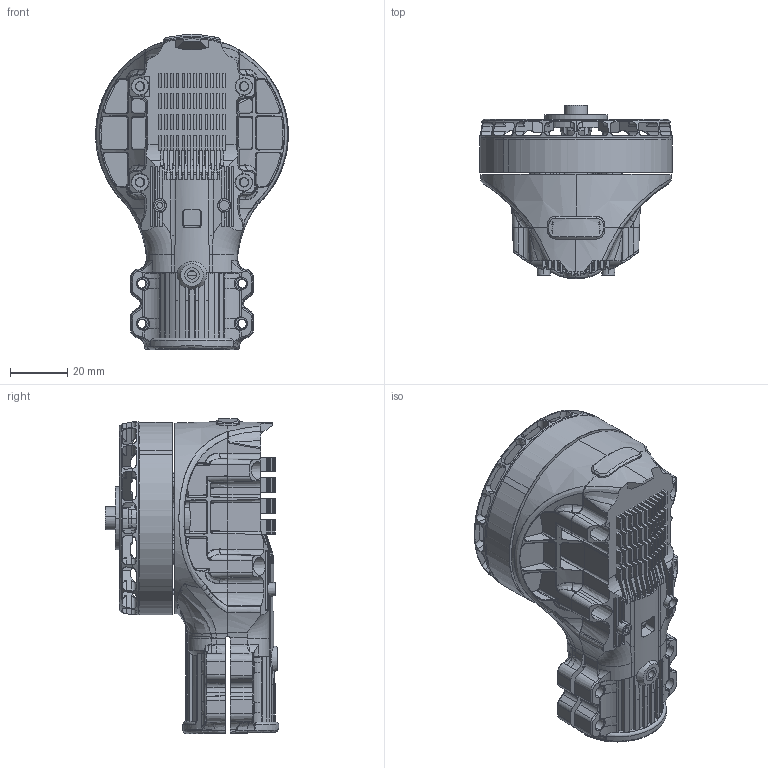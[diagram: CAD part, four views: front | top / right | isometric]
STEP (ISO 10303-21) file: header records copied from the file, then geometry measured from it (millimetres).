
FILE_DESCRIPTION (( 'STEP AP203' ), '1' );
FILE_NAME ('A6-M蚾饜芞.STEP', '2024-09-30T07:46:38', ( '' ), ( '' ), 'SwSTEP 2.0', 'SolidWorks 2022', '' );
FILE_SCHEMA (( 'CONFIG_CONTROL_DESIGN' ));
Length unit declared in the file: millimetre
Products named in the file (1): A6-M装配图
Bounding box: 67.2 x 60.4 x 109.83 mm (x, y, z)
Volume: 148369.7 mm3; surface area: 94401.9 mm2
Topology: 15 solids, 24 shells, 4573 faces, 12708 edges, 8151 vertices
Faces by surface type: plane 1778, cylinder 1055, bspline 808, cone 710, torus 168, sphere 54
Entity records: 194043 total; most frequent: CARTESIAN_POINT 85865, ORIENTED_EDGE 25292, DIRECTION 19262, EDGE_CURVE 12646, VERTEX_POINT 8145, AXIS2_PLACEMENT_3D 6842, LINE 5578, VECTOR 5578
